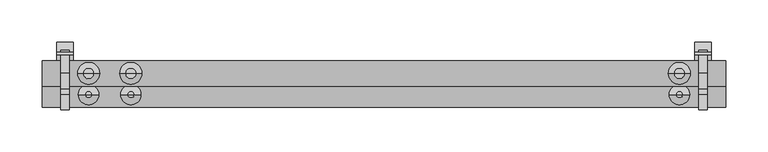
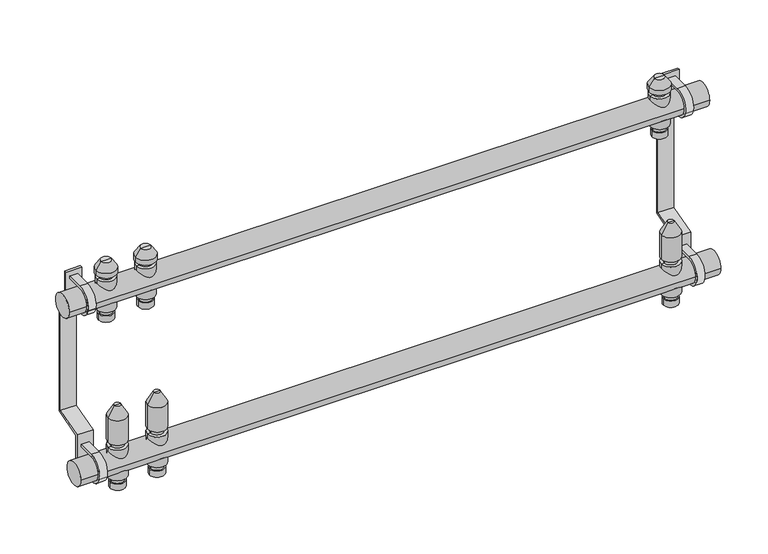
"""IFC4 building model written with IfcOpenShell, lengths in millimetres: valve geometry, PL CZ_Manifold_FT-VA : 15 circuits."""

from ifc_helpers import new_model, si_unit, point, frame, frame_2d, origin, origin_2d, place, context, project, spatial, polyline, circle_curve, trimmed, segment, composite_curve, outline, extrude, source, transform, mapped, element, save
from ifc_brep_helpers import plane_surface, cylinder_surface, revolved_surface, advanced_brep


def valve_f9b138b1(model_context):
    return source(origin(), model_context, "Body", "SolidModel", [
        advanced_brep(
        [(78.5, 0.0, -35.11267), (97.5, 0.0, -35.11267), (88.0, 0.0, -35.11267), (78.5, 0.0, -27.0369646), (97.5, 0.0, -27.0369646), (80.0, 0.0, -27.0369646), (96.0, 0.0, -27.0369646), (80.0, 0.0, -20.330253), (96.0, 0.0, -20.330253), (76.0, 0.0, -20.330253), (100.0, 0.0, -20.330253), (76.0, 0.0, 20.330253), (100.0, 0.0, 20.330253), (80.0, 0.0, 20.330253), (96.0, 0.0, 20.330253), (80.0, 0.0, 27.0474786), (96.0, 0.0, 27.0474786), (76.0, 0.0, 27.0474786), (100.0, 0.0, 27.0474786), (76.0, 0.0, 59.4084325), (100.0, 0.0, 59.4084325), (84.0, 0.0, 73.264839), (92.0, 0.0, 73.264839), (88.0, 0.0, 73.264839)],
        [
            (0, 1, circle_curve(frame((88.0, 0.0, -35.11267), z_axis=(0.0, 0.0, -1.0), x_axis=(1.0, 0.0, 0.0)), 9.5)),
            (1, 2),
            (2, 0),
            (1, 0, circle_curve(frame((88.0, 0.0, -35.11267), z_axis=(0.0, 0.0, -1.0), x_axis=(1.0, 0.0, 0.0)), 9.5)),
            (3, 4, circle_curve(frame((88.0, 0.0, -27.0369646), z_axis=(0.0, 0.0, -1.0), x_axis=(1.0, 0.0, 0.0)), 9.5)),
            (4, 1),
            (0, 3),
            (4, 3, circle_curve(frame((88.0, 0.0, -27.0369646), z_axis=(0.0, 0.0, -1.0), x_axis=(1.0, 0.0, 0.0)), 9.5)),
            (5, 6, circle_curve(frame((88.0, 0.0, -27.0369646), z_axis=(0.0, 0.0, -1.0), x_axis=(1.0, 0.0, 0.0)), 8.0)),
            (6, 4),
            (3, 5),
            (6, 5, circle_curve(frame((88.0, 0.0, -27.0369646), z_axis=(0.0, 0.0, -1.0), x_axis=(1.0, 0.0, 0.0)), 8.0)),
            (7, 8, circle_curve(frame((88.0, 0.0, -20.330253), z_axis=(0.0, 0.0, -1.0), x_axis=(1.0, 0.0, 0.0)), 8.0)),
            (8, 6),
            (5, 7),
            (8, 7, circle_curve(frame((88.0, 0.0, -20.330253), z_axis=(0.0, 0.0, -1.0), x_axis=(1.0, 0.0, 0.0)), 8.0)),
            (9, 10, circle_curve(frame((88.0, 0.0, -20.330253), z_axis=(0.0, 0.0, -1.0), x_axis=(1.0, 0.0, 0.0)), 12.0)),
            (10, 8),
            (7, 9),
            (10, 9, circle_curve(frame((88.0, 0.0, -20.330253), z_axis=(0.0, 0.0, -1.0), x_axis=(1.0, 0.0, 0.0)), 12.0)),
            (11, 12, circle_curve(frame((88.0, 0.0, 20.330253), z_axis=(0.0, 0.0, -1.0), x_axis=(1.0, 0.0, 0.0)), 12.0)),
            (12, 10),
            (9, 11),
            (12, 11, circle_curve(frame((88.0, 0.0, 20.330253), z_axis=(0.0, 0.0, -1.0), x_axis=(1.0, 0.0, 0.0)), 12.0)),
            (13, 14, circle_curve(frame((88.0, 0.0, 20.330253), z_axis=(0.0, 0.0, -1.0), x_axis=(1.0, 0.0, 0.0)), 8.0)),
            (14, 12),
            (11, 13),
            (14, 13, circle_curve(frame((88.0, 0.0, 20.330253), z_axis=(0.0, 0.0, -1.0), x_axis=(1.0, 0.0, 0.0)), 8.0)),
            (15, 16, circle_curve(frame((88.0, 0.0, 27.0474786), z_axis=(0.0, 0.0, -1.0), x_axis=(1.0, 0.0, 0.0)), 8.0)),
            (16, 14),
            (13, 15),
            (16, 15, circle_curve(frame((88.0, 0.0, 27.0474786), z_axis=(0.0, 0.0, -1.0), x_axis=(1.0, 0.0, 0.0)), 8.0)),
            (17, 18, circle_curve(frame((88.0, 0.0, 27.0474786), z_axis=(0.0, 0.0, -1.0), x_axis=(1.0, 0.0, 0.0)), 12.0)),
            (18, 16),
            (15, 17),
            (18, 17, circle_curve(frame((88.0, 0.0, 27.0474786), z_axis=(0.0, 0.0, -1.0), x_axis=(1.0, 0.0, 0.0)), 12.0)),
            (19, 20, circle_curve(frame((88.0, 0.0, 59.4084325), z_axis=(0.0, 0.0, -1.0), x_axis=(1.0, 0.0, 0.0)), 12.0)),
            (20, 18),
            (17, 19),
            (20, 19, circle_curve(frame((88.0, 0.0, 59.4084325), z_axis=(0.0, 0.0, -1.0), x_axis=(1.0, 0.0, 0.0)), 12.0)),
            (21, 22, circle_curve(frame((88.0, 0.0, 73.264839), z_axis=(0.0, 0.0, -1.0), x_axis=(1.0, 0.0, 0.0)), 4.0)),
            (22, 20),
            (19, 21),
            (22, 21, circle_curve(frame((88.0, 0.0, 73.264839), z_axis=(0.0, 0.0, -1.0), x_axis=(1.0, 0.0, 0.0)), 4.0)),
            (23, 22),
            (21, 23),
        ],
        [
            plane_surface(frame((88.0, 0.0, -35.11267), z_axis=(0.0, 0.0, -1.0), x_axis=(1.0, 0.0, 0.0))),
            cylinder_surface(frame((88.0, 0.0, 58.264839), z_axis=(0.0, 0.0, 1.0), x_axis=(1.0, 0.0, 0.0)), 9.5),
            plane_surface(frame((88.0, 0.0, -27.0369646), z_axis=(0.0, 0.0, 1.0), x_axis=(1.0, 0.0, 0.0))),
            cylinder_surface(frame((88.0, 0.0, 58.264839), z_axis=(0.0, 0.0, 1.0), x_axis=(1.0, 0.0, 0.0)), 8.0),
            plane_surface(frame((88.0, 0.0, -20.330253), z_axis=(0.0, 0.0, -1.0), x_axis=(1.0, 0.0, 0.0))),
            cylinder_surface(frame((88.0, 0.0, 58.264839), z_axis=(0.0, 0.0, 1.0), x_axis=(1.0, 0.0, 0.0)), 12.0),
            plane_surface(frame((88.0, 0.0, 20.330253), z_axis=(0.0, 0.0, 1.0), x_axis=(1.0, 0.0, 0.0))),
            plane_surface(frame((88.0, 0.0, 27.0474786), z_axis=(0.0, 0.0, -1.0), x_axis=(1.0, 0.0, 0.0))),
            revolved_surface(polyline([(100.0, 0.0, 59.4084325), (92.0, 0.0, 73.264839)]), (88.0, 0.0, 58.264839), (0.0, 0.0, 1.0)),
            plane_surface(frame((88.0, 0.0, 73.264839), z_axis=(0.0, 0.0, 1.0), x_axis=(1.0, 0.0, 0.0))),
        ],
        [
            (0, [[1, 2, 3]]),
            (0, [[4, -3, -2]]),
            (1, [[5, 6, -1, 7]]),
            (1, [[8, -7, -4, -6]]),
            (2, [[9, 10, -5, 11]]),
            (2, [[12, -11, -8, -10]]),
            (3, [[13, 14, -9, 15]]),
            (3, [[16, -15, -12, -14]]),
            (4, [[17, 18, -13, 19]]),
            (4, [[20, -19, -16, -18]]),
            (5, [[21, 22, -17, 23]]),
            (5, [[24, -23, -20, -22]]),
            (6, [[25, 26, -21, 27]]),
            (6, [[28, -27, -24, -26]]),
            (3, [[29, 30, -25, 31]]),
            (3, [[32, -31, -28, -30]]),
            (7, [[33, 34, -29, 35]]),
            (7, [[36, -35, -32, -34]]),
            (5, [[37, 38, -33, 39]]),
            (5, [[40, -39, -36, -38]]),
            (8, [[41, 42, -37, 43]]),
            (8, [[44, -43, -40, -42]]),
            (9, [[45, -41, 46]]),
            (9, [[-46, -44, -45]]),
        ],
    ),
        advanced_brep(
        [(78.5, 25.0, 174.88733), (97.5, 25.0, 174.88733), (88.0, 25.0, 174.88733), (78.5, 25.0, 182.9630354), (97.5, 25.0, 182.9630354), (80.0, 25.0, 182.9630354), (96.0, 25.0, 182.9630354), (80.0, 25.0, 189.669747), (96.0, 25.0, 189.669747), (76.0, 25.0, 189.669747), (100.0, 25.0, 189.669747), (76.0, 25.0, 230.330253), (100.0, 25.0, 230.330253), (80.0, 25.0, 230.330253), (96.0, 25.0, 230.330253), (80.0, 25.0, 236.0474786), (96.0, 25.0, 236.0474786), (75.0, 25.0, 236.0474786), (101.0, 25.0, 236.0474786), (75.0, 25.0, 242.337955), (101.0, 25.0, 242.337955), (81.6551779, 25.0, 251.842534), (94.3448221, 25.0, 251.842534), (88.0, 25.0, 251.842534)],
        [
            (0, 1, circle_curve(frame((88.0, 25.0, 174.88733), z_axis=(0.0, 0.0, -1.0), x_axis=(1.0, 0.0, 0.0)), 9.5)),
            (1, 2),
            (2, 0),
            (1, 0, circle_curve(frame((88.0, 25.0, 174.88733), z_axis=(0.0, 0.0, -1.0), x_axis=(1.0, 0.0, 0.0)), 9.5)),
            (3, 4, circle_curve(frame((88.0, 25.0, 182.9630354), z_axis=(0.0, 0.0, -1.0), x_axis=(1.0, 0.0, 0.0)), 9.5)),
            (4, 1),
            (0, 3),
            (4, 3, circle_curve(frame((88.0, 25.0, 182.9630354), z_axis=(0.0, 0.0, -1.0), x_axis=(1.0, 0.0, 0.0)), 9.5)),
            (5, 6, circle_curve(frame((88.0, 25.0, 182.9630354), z_axis=(0.0, 0.0, -1.0), x_axis=(1.0, 0.0, 0.0)), 8.0)),
            (6, 4),
            (3, 5),
            (6, 5, circle_curve(frame((88.0, 25.0, 182.9630354), z_axis=(0.0, 0.0, -1.0), x_axis=(1.0, 0.0, 0.0)), 8.0)),
            (7, 8, circle_curve(frame((88.0, 25.0, 189.669747), z_axis=(0.0, 0.0, -1.0), x_axis=(1.0, 0.0, 0.0)), 8.0)),
            (8, 6),
            (5, 7),
            (8, 7, circle_curve(frame((88.0, 25.0, 189.669747), z_axis=(0.0, 0.0, -1.0), x_axis=(1.0, 0.0, 0.0)), 8.0)),
            (9, 10, circle_curve(frame((88.0, 25.0, 189.669747), z_axis=(0.0, 0.0, -1.0), x_axis=(1.0, 0.0, 0.0)), 12.0)),
            (10, 8),
            (7, 9),
            (10, 9, circle_curve(frame((88.0, 25.0, 189.669747), z_axis=(0.0, 0.0, -1.0), x_axis=(1.0, 0.0, 0.0)), 12.0)),
            (11, 12, circle_curve(frame((88.0, 25.0, 230.330253), z_axis=(0.0, 0.0, -1.0), x_axis=(1.0, 0.0, 0.0)), 12.0)),
            (12, 10),
            (9, 11),
            (12, 11, circle_curve(frame((88.0, 25.0, 230.330253), z_axis=(0.0, 0.0, -1.0), x_axis=(1.0, 0.0, 0.0)), 12.0)),
            (13, 14, circle_curve(frame((88.0, 25.0, 230.330253), z_axis=(0.0, 0.0, -1.0), x_axis=(1.0, 0.0, 0.0)), 8.0)),
            (14, 12),
            (11, 13),
            (14, 13, circle_curve(frame((88.0, 25.0, 230.330253), z_axis=(0.0, 0.0, -1.0), x_axis=(1.0, 0.0, 0.0)), 8.0)),
            (15, 16, circle_curve(frame((88.0, 25.0, 236.0474786), z_axis=(0.0, 0.0, -1.0), x_axis=(1.0, 0.0, 0.0)), 8.0)),
            (16, 14),
            (13, 15),
            (16, 15, circle_curve(frame((88.0, 25.0, 236.0474786), z_axis=(0.0, 0.0, -1.0), x_axis=(1.0, 0.0, 0.0)), 8.0)),
            (17, 18, circle_curve(frame((88.0, 25.0, 236.0474786), z_axis=(0.0, 0.0, -1.0), x_axis=(1.0, 0.0, 0.0)), 13.0)),
            (18, 16),
            (15, 17),
            (18, 17, circle_curve(frame((88.0, 25.0, 236.0474786), z_axis=(0.0, 0.0, -1.0), x_axis=(1.0, 0.0, 0.0)), 13.0)),
            (19, 20, circle_curve(frame((88.0, 25.0, 242.337955), z_axis=(0.0, 0.0, -1.0), x_axis=(1.0, 0.0, 0.0)), 13.0)),
            (20, 18),
            (17, 19),
            (20, 19, circle_curve(frame((88.0, 25.0, 242.337955), z_axis=(0.0, 0.0, -1.0), x_axis=(1.0, 0.0, 0.0)), 13.0)),
            (21, 22, circle_curve(frame((88.0, 25.0, 251.842534), z_axis=(0.0, 0.0, -1.0), x_axis=(1.0, 0.0, 0.0)), 6.3448221)),
            (22, 20),
            (19, 21),
            (22, 21, circle_curve(frame((88.0, 25.0, 251.842534), z_axis=(0.0, 0.0, -1.0), x_axis=(1.0, 0.0, 0.0)), 6.3448221)),
            (23, 22),
            (21, 23),
        ],
        [
            plane_surface(frame((88.0, 25.0, 174.88733), z_axis=(0.0, 0.0, -1.0), x_axis=(1.0, 0.0, 0.0))),
            cylinder_surface(frame((88.0, 25.0, 247.7026565), z_axis=(0.0, 0.0, 1.0), x_axis=(1.0, 0.0, 0.0)), 9.5),
            plane_surface(frame((88.0, 25.0, 182.9630354), z_axis=(0.0, 0.0, 1.0), x_axis=(1.0, 0.0, 0.0))),
            cylinder_surface(frame((88.0, 25.0, 247.7026565), z_axis=(0.0, 0.0, 1.0), x_axis=(1.0, 0.0, 0.0)), 8.0),
            plane_surface(frame((88.0, 25.0, 189.669747), z_axis=(0.0, 0.0, -1.0), x_axis=(1.0, 0.0, 0.0))),
            cylinder_surface(frame((88.0, 25.0, 247.7026565), z_axis=(0.0, 0.0, 1.0), x_axis=(1.0, 0.0, 0.0)), 12.0),
            plane_surface(frame((88.0, 25.0, 230.330253), z_axis=(0.0, 0.0, 1.0), x_axis=(1.0, 0.0, 0.0))),
            plane_surface(frame((88.0, 25.0, 236.0474786), z_axis=(0.0, 0.0, -1.0), x_axis=(1.0, 0.0, 0.0))),
            cylinder_surface(frame((88.0, 25.0, 247.7026565), z_axis=(0.0, 0.0, 1.0), x_axis=(1.0, 0.0, 0.0)), 13.0),
            revolved_surface(polyline([(101.0, 25.0, 242.337955), (94.3448221, 25.0, 251.842534)]), (88.0, 25.0, 247.7026565), (0.0, 0.0, 1.0)),
            plane_surface(frame((88.0, 25.0, 251.842534), z_axis=(0.0, 0.0, 1.0), x_axis=(1.0, 0.0, 0.0))),
        ],
        [
            (0, [[1, 2, 3]]),
            (0, [[4, -3, -2]]),
            (1, [[5, 6, -1, 7]]),
            (1, [[8, -7, -4, -6]]),
            (2, [[9, 10, -5, 11]]),
            (2, [[12, -11, -8, -10]]),
            (3, [[13, 14, -9, 15]]),
            (3, [[16, -15, -12, -14]]),
            (4, [[17, 18, -13, 19]]),
            (4, [[20, -19, -16, -18]]),
            (5, [[21, 22, -17, 23]]),
            (5, [[24, -23, -20, -22]]),
            (6, [[25, 26, -21, 27]]),
            (6, [[28, -27, -24, -26]]),
            (3, [[29, 30, -25, 31]]),
            (3, [[32, -31, -28, -30]]),
            (7, [[33, 34, -29, 35]]),
            (7, [[36, -35, -32, -34]]),
            (8, [[37, 38, -33, 39]]),
            (8, [[40, -39, -36, -38]]),
            (9, [[41, 42, -37, 43]]),
            (9, [[44, -43, -40, -42]]),
            (10, [[45, -41, 46]]),
            (10, [[-46, -44, -45]]),
        ],
    ),
        advanced_brep(
        [(728.5, 0.0, -35.11267), (747.5, 0.0, -35.11267), (738.0, 0.0, -35.11267), (728.5, 0.0, -27.0369646), (747.5, 0.0, -27.0369646), (730.0, 0.0, -27.0369646), (746.0, 0.0, -27.0369646), (730.0, 0.0, -20.330253), (746.0, 0.0, -20.330253), (726.0, 0.0, -20.330253), (750.0, 0.0, -20.330253), (726.0, 0.0, 20.330253), (750.0, 0.0, 20.330253), (730.0, 0.0, 20.330253), (746.0, 0.0, 20.330253), (730.0, 0.0, 27.0474786), (746.0, 0.0, 27.0474786), (726.0, 0.0, 27.0474786), (750.0, 0.0, 27.0474786), (726.0, 0.0, 59.4084325), (750.0, 0.0, 59.4084325), (734.0, 0.0, 73.264839), (742.0, 0.0, 73.264839), (738.0, 0.0, 73.264839)],
        [
            (0, 1, circle_curve(frame((738.0, 0.0, -35.11267), z_axis=(0.0, 0.0, -1.0), x_axis=(1.0, 0.0, 0.0)), 9.5)),
            (1, 2),
            (2, 0),
            (1, 0, circle_curve(frame((738.0, 0.0, -35.11267), z_axis=(0.0, 0.0, -1.0), x_axis=(1.0, 0.0, 0.0)), 9.5)),
            (3, 4, circle_curve(frame((738.0, 0.0, -27.0369646), z_axis=(0.0, 0.0, -1.0), x_axis=(1.0, 0.0, 0.0)), 9.5)),
            (4, 1),
            (0, 3),
            (4, 3, circle_curve(frame((738.0, 0.0, -27.0369646), z_axis=(0.0, 0.0, -1.0), x_axis=(1.0, 0.0, 0.0)), 9.5)),
            (5, 6, circle_curve(frame((738.0, 0.0, -27.0369646), z_axis=(0.0, 0.0, -1.0), x_axis=(1.0, 0.0, 0.0)), 8.0)),
            (6, 4),
            (3, 5),
            (6, 5, circle_curve(frame((738.0, 0.0, -27.0369646), z_axis=(0.0, 0.0, -1.0), x_axis=(1.0, 0.0, 0.0)), 8.0)),
            (7, 8, circle_curve(frame((738.0, 0.0, -20.330253), z_axis=(0.0, 0.0, -1.0), x_axis=(1.0, 0.0, 0.0)), 8.0)),
            (8, 6),
            (5, 7),
            (8, 7, circle_curve(frame((738.0, 0.0, -20.330253), z_axis=(0.0, 0.0, -1.0), x_axis=(1.0, 0.0, 0.0)), 8.0)),
            (9, 10, circle_curve(frame((738.0, 0.0, -20.330253), z_axis=(0.0, 0.0, -1.0), x_axis=(1.0, 0.0, 0.0)), 12.0)),
            (10, 8),
            (7, 9),
            (10, 9, circle_curve(frame((738.0, 0.0, -20.330253), z_axis=(0.0, 0.0, -1.0), x_axis=(1.0, 0.0, 0.0)), 12.0)),
            (11, 12, circle_curve(frame((738.0, 0.0, 20.330253), z_axis=(0.0, 0.0, -1.0), x_axis=(1.0, 0.0, 0.0)), 12.0)),
            (12, 10),
            (9, 11),
            (12, 11, circle_curve(frame((738.0, 0.0, 20.330253), z_axis=(0.0, 0.0, -1.0), x_axis=(1.0, 0.0, 0.0)), 12.0)),
            (13, 14, circle_curve(frame((738.0, 0.0, 20.330253), z_axis=(0.0, 0.0, -1.0), x_axis=(1.0, 0.0, 0.0)), 8.0)),
            (14, 12),
            (11, 13),
            (14, 13, circle_curve(frame((738.0, 0.0, 20.330253), z_axis=(0.0, 0.0, -1.0), x_axis=(1.0, 0.0, 0.0)), 8.0)),
            (15, 16, circle_curve(frame((738.0, 0.0, 27.0474786), z_axis=(0.0, 0.0, -1.0), x_axis=(1.0, 0.0, 0.0)), 8.0)),
            (16, 14),
            (13, 15),
            (16, 15, circle_curve(frame((738.0, 0.0, 27.0474786), z_axis=(0.0, 0.0, -1.0), x_axis=(1.0, 0.0, 0.0)), 8.0)),
            (17, 18, circle_curve(frame((738.0, 0.0, 27.0474786), z_axis=(0.0, 0.0, -1.0), x_axis=(1.0, 0.0, 0.0)), 12.0)),
            (18, 16),
            (15, 17),
            (18, 17, circle_curve(frame((738.0, 0.0, 27.0474786), z_axis=(0.0, 0.0, -1.0), x_axis=(1.0, 0.0, 0.0)), 12.0)),
            (19, 20, circle_curve(frame((738.0, 0.0, 59.4084325), z_axis=(0.0, 0.0, -1.0), x_axis=(1.0, 0.0, 0.0)), 12.0)),
            (20, 18),
            (17, 19),
            (20, 19, circle_curve(frame((738.0, 0.0, 59.4084325), z_axis=(0.0, 0.0, -1.0), x_axis=(1.0, 0.0, 0.0)), 12.0)),
            (21, 22, circle_curve(frame((738.0, 0.0, 73.264839), z_axis=(0.0, 0.0, -1.0), x_axis=(1.0, 0.0, 0.0)), 4.0)),
            (22, 20),
            (19, 21),
            (22, 21, circle_curve(frame((738.0, 0.0, 73.264839), z_axis=(0.0, 0.0, -1.0), x_axis=(1.0, 0.0, 0.0)), 4.0)),
            (23, 22),
            (21, 23),
        ],
        [
            plane_surface(frame((738.0, 0.0, -35.11267), z_axis=(0.0, 0.0, -1.0), x_axis=(1.0, 0.0, 0.0))),
            cylinder_surface(frame((738.0, 0.0, 58.264839), z_axis=(0.0, 0.0, 1.0), x_axis=(1.0, 0.0, 0.0)), 9.5),
            plane_surface(frame((738.0, 0.0, -27.0369646), z_axis=(0.0, 0.0, 1.0), x_axis=(1.0, 0.0, 0.0))),
            cylinder_surface(frame((738.0, 0.0, 58.264839), z_axis=(0.0, 0.0, 1.0), x_axis=(1.0, 0.0, 0.0)), 8.0),
            plane_surface(frame((738.0, 0.0, -20.330253), z_axis=(0.0, 0.0, -1.0), x_axis=(1.0, 0.0, 0.0))),
            cylinder_surface(frame((738.0, 0.0, 58.264839), z_axis=(0.0, 0.0, 1.0), x_axis=(1.0, 0.0, 0.0)), 12.0),
            plane_surface(frame((738.0, 0.0, 20.330253), z_axis=(0.0, 0.0, 1.0), x_axis=(1.0, 0.0, 0.0))),
            plane_surface(frame((738.0, 0.0, 27.0474786), z_axis=(0.0, 0.0, -1.0), x_axis=(1.0, 0.0, 0.0))),
            revolved_surface(polyline([(750.0, 0.0, 59.4084325), (742.0, 0.0, 73.264839)]), (738.0, 0.0, 58.264839), (0.0, 0.0, 1.0)),
            plane_surface(frame((738.0, 0.0, 73.264839), z_axis=(0.0, 0.0, 1.0), x_axis=(1.0, 0.0, 0.0))),
        ],
        [
            (0, [[1, 2, 3]]),
            (0, [[4, -3, -2]]),
            (1, [[5, 6, -1, 7]]),
            (1, [[8, -7, -4, -6]]),
            (2, [[9, 10, -5, 11]]),
            (2, [[12, -11, -8, -10]]),
            (3, [[13, 14, -9, 15]]),
            (3, [[16, -15, -12, -14]]),
            (4, [[17, 18, -13, 19]]),
            (4, [[20, -19, -16, -18]]),
            (5, [[21, 22, -17, 23]]),
            (5, [[24, -23, -20, -22]]),
            (6, [[25, 26, -21, 27]]),
            (6, [[28, -27, -24, -26]]),
            (3, [[29, 30, -25, 31]]),
            (3, [[32, -31, -28, -30]]),
            (7, [[33, 34, -29, 35]]),
            (7, [[36, -35, -32, -34]]),
            (5, [[37, 38, -33, 39]]),
            (5, [[40, -39, -36, -38]]),
            (8, [[41, 42, -37, 43]]),
            (8, [[44, -43, -40, -42]]),
            (9, [[45, -41, 46]]),
            (9, [[-46, -44, -45]]),
        ],
    ),
        advanced_brep(
        [(728.5, 25.0, 174.88733), (747.5, 25.0, 174.88733), (738.0, 25.0, 174.88733), (728.5, 25.0, 182.9630354), (747.5, 25.0, 182.9630354), (730.0, 25.0, 182.9630354), (746.0, 25.0, 182.9630354), (730.0, 25.0, 189.669747), (746.0, 25.0, 189.669747), (726.0, 25.0, 189.669747), (750.0, 25.0, 189.669747), (726.0, 25.0, 230.330253), (750.0, 25.0, 230.330253), (730.0, 25.0, 230.330253), (746.0, 25.0, 230.330253), (730.0, 25.0, 236.0474786), (746.0, 25.0, 236.0474786), (725.0, 25.0, 236.0474786), (751.0, 25.0, 236.0474786), (725.0, 25.0, 242.337955), (751.0, 25.0, 242.337955), (731.6551779, 25.0, 251.842534), (744.3448221, 25.0, 251.842534), (738.0, 25.0, 251.842534)],
        [
            (0, 1, circle_curve(frame((738.0, 25.0, 174.88733), z_axis=(0.0, 0.0, -1.0), x_axis=(1.0, 0.0, 0.0)), 9.5)),
            (1, 2),
            (2, 0),
            (1, 0, circle_curve(frame((738.0, 25.0, 174.88733), z_axis=(0.0, 0.0, -1.0), x_axis=(1.0, 0.0, 0.0)), 9.5)),
            (3, 4, circle_curve(frame((738.0, 25.0, 182.9630354), z_axis=(0.0, 0.0, -1.0), x_axis=(1.0, 0.0, 0.0)), 9.5)),
            (4, 1),
            (0, 3),
            (4, 3, circle_curve(frame((738.0, 25.0, 182.9630354), z_axis=(0.0, 0.0, -1.0), x_axis=(1.0, 0.0, 0.0)), 9.5)),
            (5, 6, circle_curve(frame((738.0, 25.0, 182.9630354), z_axis=(0.0, 0.0, -1.0), x_axis=(1.0, 0.0, 0.0)), 8.0)),
            (6, 4),
            (3, 5),
            (6, 5, circle_curve(frame((738.0, 25.0, 182.9630354), z_axis=(0.0, 0.0, -1.0), x_axis=(1.0, 0.0, 0.0)), 8.0)),
            (7, 8, circle_curve(frame((738.0, 25.0, 189.669747), z_axis=(0.0, 0.0, -1.0), x_axis=(1.0, 0.0, 0.0)), 8.0)),
            (8, 6),
            (5, 7),
            (8, 7, circle_curve(frame((738.0, 25.0, 189.669747), z_axis=(0.0, 0.0, -1.0), x_axis=(1.0, 0.0, 0.0)), 8.0)),
            (9, 10, circle_curve(frame((738.0, 25.0, 189.669747), z_axis=(0.0, 0.0, -1.0), x_axis=(1.0, 0.0, 0.0)), 12.0)),
            (10, 8),
            (7, 9),
            (10, 9, circle_curve(frame((738.0, 25.0, 189.669747), z_axis=(0.0, 0.0, -1.0), x_axis=(1.0, 0.0, 0.0)), 12.0)),
            (11, 12, circle_curve(frame((738.0, 25.0, 230.330253), z_axis=(0.0, 0.0, -1.0), x_axis=(1.0, 0.0, 0.0)), 12.0)),
            (12, 10),
            (9, 11),
            (12, 11, circle_curve(frame((738.0, 25.0, 230.330253), z_axis=(0.0, 0.0, -1.0), x_axis=(1.0, 0.0, 0.0)), 12.0)),
            (13, 14, circle_curve(frame((738.0, 25.0, 230.330253), z_axis=(0.0, 0.0, -1.0), x_axis=(1.0, 0.0, 0.0)), 8.0)),
            (14, 12),
            (11, 13),
            (14, 13, circle_curve(frame((738.0, 25.0, 230.330253), z_axis=(0.0, 0.0, -1.0), x_axis=(1.0, 0.0, 0.0)), 8.0)),
            (15, 16, circle_curve(frame((738.0, 25.0, 236.0474786), z_axis=(0.0, 0.0, -1.0), x_axis=(1.0, 0.0, 0.0)), 8.0)),
            (16, 14),
            (13, 15),
            (16, 15, circle_curve(frame((738.0, 25.0, 236.0474786), z_axis=(0.0, 0.0, -1.0), x_axis=(1.0, 0.0, 0.0)), 8.0)),
            (17, 18, circle_curve(frame((738.0, 25.0, 236.0474786), z_axis=(0.0, 0.0, -1.0), x_axis=(1.0, 0.0, 0.0)), 13.0)),
            (18, 16),
            (15, 17),
            (18, 17, circle_curve(frame((738.0, 25.0, 236.0474786), z_axis=(0.0, 0.0, -1.0), x_axis=(1.0, 0.0, 0.0)), 13.0)),
            (19, 20, circle_curve(frame((738.0, 25.0, 242.337955), z_axis=(0.0, 0.0, -1.0), x_axis=(1.0, 0.0, 0.0)), 13.0)),
            (20, 18),
            (17, 19),
            (20, 19, circle_curve(frame((738.0, 25.0, 242.337955), z_axis=(0.0, 0.0, -1.0), x_axis=(1.0, 0.0, 0.0)), 13.0)),
            (21, 22, circle_curve(frame((738.0, 25.0, 251.842534), z_axis=(0.0, 0.0, -1.0), x_axis=(1.0, 0.0, 0.0)), 6.3448221)),
            (22, 20),
            (19, 21),
            (22, 21, circle_curve(frame((738.0, 25.0, 251.842534), z_axis=(0.0, 0.0, -1.0), x_axis=(1.0, 0.0, 0.0)), 6.3448221)),
            (23, 22),
            (21, 23),
        ],
        [
            plane_surface(frame((738.0, 25.0, 174.88733), z_axis=(0.0, 0.0, -1.0), x_axis=(1.0, 0.0, 0.0))),
            cylinder_surface(frame((738.0, 25.0, 247.7026565), z_axis=(0.0, 0.0, 1.0), x_axis=(1.0, 0.0, 0.0)), 9.5),
            plane_surface(frame((738.0, 25.0, 182.9630354), z_axis=(0.0, 0.0, 1.0), x_axis=(1.0, 0.0, 0.0))),
            cylinder_surface(frame((738.0, 25.0, 247.7026565), z_axis=(0.0, 0.0, 1.0), x_axis=(1.0, 0.0, 0.0)), 8.0),
            plane_surface(frame((738.0, 25.0, 189.669747), z_axis=(0.0, 0.0, -1.0), x_axis=(1.0, 0.0, 0.0))),
            cylinder_surface(frame((738.0, 25.0, 247.7026565), z_axis=(0.0, 0.0, 1.0), x_axis=(1.0, 0.0, 0.0)), 12.0),
            plane_surface(frame((738.0, 25.0, 230.330253), z_axis=(0.0, 0.0, 1.0), x_axis=(1.0, 0.0, 0.0))),
            plane_surface(frame((738.0, 25.0, 236.0474786), z_axis=(0.0, 0.0, -1.0), x_axis=(1.0, 0.0, 0.0))),
            cylinder_surface(frame((738.0, 25.0, 247.7026565), z_axis=(0.0, 0.0, 1.0), x_axis=(1.0, 0.0, 0.0)), 13.0),
            revolved_surface(polyline([(751.0, 25.0, 242.337955), (744.3448221, 25.0, 251.842534)]), (738.0, 25.0, 247.7026565), (0.0, 0.0, 1.0)),
            plane_surface(frame((738.0, 25.0, 251.842534), z_axis=(0.0, 0.0, 1.0), x_axis=(1.0, 0.0, 0.0))),
        ],
        [
            (0, [[1, 2, 3]]),
            (0, [[4, -3, -2]]),
            (1, [[5, 6, -1, 7]]),
            (1, [[8, -7, -4, -6]]),
            (2, [[9, 10, -5, 11]]),
            (2, [[12, -11, -8, -10]]),
            (3, [[13, 14, -9, 15]]),
            (3, [[16, -15, -12, -14]]),
            (4, [[17, 18, -13, 19]]),
            (4, [[20, -19, -16, -18]]),
            (5, [[21, 22, -17, 23]]),
            (5, [[24, -23, -20, -22]]),
            (6, [[25, 26, -21, 27]]),
            (6, [[28, -27, -24, -26]]),
            (3, [[29, 30, -25, 31]]),
            (3, [[32, -31, -28, -30]]),
            (7, [[33, 34, -29, 35]]),
            (7, [[36, -35, -32, -34]]),
            (8, [[37, 38, -33, 39]]),
            (8, [[40, -39, -36, -38]]),
            (9, [[41, 42, -37, 43]]),
            (9, [[44, -43, -40, -42]]),
            (10, [[45, -41, 46]]),
            (10, [[-46, -44, -45]]),
        ],
    ),
        advanced_brep(
        [(28.5, 25.0, 174.88733), (47.5, 25.0, 174.88733), (38.0, 25.0, 174.88733), (28.5, 25.0, 182.9630354), (47.5, 25.0, 182.9630354), (30.0, 25.0, 182.9630354), (46.0, 25.0, 182.9630354), (30.0, 25.0, 189.669747), (46.0, 25.0, 189.669747), (26.0, 25.0, 189.669747), (50.0, 25.0, 189.669747), (26.0, 25.0, 230.330253), (50.0, 25.0, 230.330253), (30.0, 25.0, 230.330253), (46.0, 25.0, 230.330253), (30.0, 25.0, 236.0474786), (46.0, 25.0, 236.0474786), (25.0, 25.0, 236.0474786), (51.0, 25.0, 236.0474786), (25.0, 25.0, 242.337955), (51.0, 25.0, 242.337955), (31.6551779, 25.0, 251.842534), (44.3448221, 25.0, 251.842534), (38.0, 25.0, 251.842534)],
        [
            (0, 1, circle_curve(frame((38.0, 25.0, 174.88733), z_axis=(0.0, 0.0, -1.0), x_axis=(1.0, 0.0, 0.0)), 9.5)),
            (1, 2),
            (2, 0),
            (1, 0, circle_curve(frame((38.0, 25.0, 174.88733), z_axis=(0.0, 0.0, -1.0), x_axis=(1.0, 0.0, 0.0)), 9.5)),
            (3, 4, circle_curve(frame((38.0, 25.0, 182.9630354), z_axis=(0.0, 0.0, -1.0), x_axis=(1.0, 0.0, 0.0)), 9.5)),
            (4, 1),
            (0, 3),
            (4, 3, circle_curve(frame((38.0, 25.0, 182.9630354), z_axis=(0.0, 0.0, -1.0), x_axis=(1.0, 0.0, 0.0)), 9.5)),
            (5, 6, circle_curve(frame((38.0, 25.0, 182.9630354), z_axis=(0.0, 0.0, -1.0), x_axis=(1.0, 0.0, 0.0)), 8.0)),
            (6, 4),
            (3, 5),
            (6, 5, circle_curve(frame((38.0, 25.0, 182.9630354), z_axis=(0.0, 0.0, -1.0), x_axis=(1.0, 0.0, 0.0)), 8.0)),
            (7, 8, circle_curve(frame((38.0, 25.0, 189.669747), z_axis=(0.0, 0.0, -1.0), x_axis=(1.0, 0.0, 0.0)), 8.0)),
            (8, 6),
            (5, 7),
            (8, 7, circle_curve(frame((38.0, 25.0, 189.669747), z_axis=(0.0, 0.0, -1.0), x_axis=(1.0, 0.0, 0.0)), 8.0)),
            (9, 10, circle_curve(frame((38.0, 25.0, 189.669747), z_axis=(0.0, 0.0, -1.0), x_axis=(1.0, 0.0, 0.0)), 12.0)),
            (10, 8),
            (7, 9),
            (10, 9, circle_curve(frame((38.0, 25.0, 189.669747), z_axis=(0.0, 0.0, -1.0), x_axis=(1.0, 0.0, 0.0)), 12.0)),
            (11, 12, circle_curve(frame((38.0, 25.0, 230.330253), z_axis=(0.0, 0.0, -1.0), x_axis=(1.0, 0.0, 0.0)), 12.0)),
            (12, 10),
            (9, 11),
            (12, 11, circle_curve(frame((38.0, 25.0, 230.330253), z_axis=(0.0, 0.0, -1.0), x_axis=(1.0, 0.0, 0.0)), 12.0)),
            (13, 14, circle_curve(frame((38.0, 25.0, 230.330253), z_axis=(0.0, 0.0, -1.0), x_axis=(1.0, 0.0, 0.0)), 8.0)),
            (14, 12),
            (11, 13),
            (14, 13, circle_curve(frame((38.0, 25.0, 230.330253), z_axis=(0.0, 0.0, -1.0), x_axis=(1.0, 0.0, 0.0)), 8.0)),
            (15, 16, circle_curve(frame((38.0, 25.0, 236.0474786), z_axis=(0.0, 0.0, -1.0), x_axis=(1.0, 0.0, 0.0)), 8.0)),
            (16, 14),
            (13, 15),
            (16, 15, circle_curve(frame((38.0, 25.0, 236.0474786), z_axis=(0.0, 0.0, -1.0), x_axis=(1.0, 0.0, 0.0)), 8.0)),
            (17, 18, circle_curve(frame((38.0, 25.0, 236.0474786), z_axis=(0.0, 0.0, -1.0), x_axis=(1.0, 0.0, 0.0)), 13.0)),
            (18, 16),
            (15, 17),
            (18, 17, circle_curve(frame((38.0, 25.0, 236.0474786), z_axis=(0.0, 0.0, -1.0), x_axis=(1.0, 0.0, 0.0)), 13.0)),
            (19, 20, circle_curve(frame((38.0, 25.0, 242.337955), z_axis=(0.0, 0.0, -1.0), x_axis=(1.0, 0.0, 0.0)), 13.0)),
            (20, 18),
            (17, 19),
            (20, 19, circle_curve(frame((38.0, 25.0, 242.337955), z_axis=(0.0, 0.0, -1.0), x_axis=(1.0, 0.0, 0.0)), 13.0)),
            (21, 22, circle_curve(frame((38.0, 25.0, 251.842534), z_axis=(0.0, 0.0, -1.0), x_axis=(1.0, 0.0, 0.0)), 6.3448221)),
            (22, 20),
            (19, 21),
            (22, 21, circle_curve(frame((38.0, 25.0, 251.842534), z_axis=(0.0, 0.0, -1.0), x_axis=(1.0, 0.0, 0.0)), 6.3448221)),
            (23, 22),
            (21, 23),
        ],
        [
            plane_surface(frame((38.0, 25.0, 174.88733), z_axis=(0.0, 0.0, -1.0), x_axis=(1.0, 0.0, 0.0))),
            cylinder_surface(frame((38.0, 25.0, 247.7026565), z_axis=(0.0, 0.0, 1.0), x_axis=(1.0, 0.0, 0.0)), 9.5),
            plane_surface(frame((38.0, 25.0, 182.9630354), z_axis=(0.0, 0.0, 1.0), x_axis=(1.0, 0.0, 0.0))),
            cylinder_surface(frame((38.0, 25.0, 247.7026565), z_axis=(0.0, 0.0, 1.0), x_axis=(1.0, 0.0, 0.0)), 8.0),
            plane_surface(frame((38.0, 25.0, 189.669747), z_axis=(0.0, 0.0, -1.0), x_axis=(1.0, 0.0, 0.0))),
            cylinder_surface(frame((38.0, 25.0, 247.7026565), z_axis=(0.0, 0.0, 1.0), x_axis=(1.0, 0.0, 0.0)), 12.0),
            plane_surface(frame((38.0, 25.0, 230.330253), z_axis=(0.0, 0.0, 1.0), x_axis=(1.0, 0.0, 0.0))),
            plane_surface(frame((38.0, 25.0, 236.0474786), z_axis=(0.0, 0.0, -1.0), x_axis=(1.0, 0.0, 0.0))),
            cylinder_surface(frame((38.0, 25.0, 247.7026565), z_axis=(0.0, 0.0, 1.0), x_axis=(1.0, 0.0, 0.0)), 13.0),
            revolved_surface(polyline([(51.0, 25.0, 242.337955), (44.3448221, 25.0, 251.842534)]), (38.0, 25.0, 247.7026565), (0.0, 0.0, 1.0)),
            plane_surface(frame((38.0, 25.0, 251.842534), z_axis=(0.0, 0.0, 1.0), x_axis=(1.0, 0.0, 0.0))),
        ],
        [
            (0, [[1, 2, 3]]),
            (0, [[4, -3, -2]]),
            (1, [[5, 6, -1, 7]]),
            (1, [[8, -7, -4, -6]]),
            (2, [[9, 10, -5, 11]]),
            (2, [[12, -11, -8, -10]]),
            (3, [[13, 14, -9, 15]]),
            (3, [[16, -15, -12, -14]]),
            (4, [[17, 18, -13, 19]]),
            (4, [[20, -19, -16, -18]]),
            (5, [[21, 22, -17, 23]]),
            (5, [[24, -23, -20, -22]]),
            (6, [[25, 26, -21, 27]]),
            (6, [[28, -27, -24, -26]]),
            (3, [[29, 30, -25, 31]]),
            (3, [[32, -31, -28, -30]]),
            (7, [[33, 34, -29, 35]]),
            (7, [[36, -35, -32, -34]]),
            (8, [[37, 38, -33, 39]]),
            (8, [[40, -39, -36, -38]]),
            (9, [[41, 42, -37, 43]]),
            (9, [[44, -43, -40, -42]]),
            (10, [[45, -41, 46]]),
            (10, [[-46, -44, -45]]),
        ],
    ),
        advanced_brep(
        [(28.5, 0.0, -35.11267), (47.5, 0.0, -35.11267), (38.0, 0.0, -35.11267), (28.5, 0.0, -27.0369646), (47.5, 0.0, -27.0369646), (30.0, 0.0, -27.0369646), (46.0, 0.0, -27.0369646), (30.0, 0.0, -20.330253), (46.0, 0.0, -20.330253), (26.0, 0.0, -20.330253), (50.0, 0.0, -20.330253), (26.0, 0.0, 20.330253), (50.0, 0.0, 20.330253), (30.0, 0.0, 20.330253), (46.0, 0.0, 20.330253), (30.0, 0.0, 27.0474786), (46.0, 0.0, 27.0474786), (26.0, 0.0, 27.0474786), (50.0, 0.0, 27.0474786), (26.0, 0.0, 59.4084325), (50.0, 0.0, 59.4084325), (34.0, 0.0, 73.264839), (42.0, 0.0, 73.264839), (38.0, 0.0, 73.264839)],
        [
            (0, 1, circle_curve(frame((38.0, 0.0, -35.11267), z_axis=(0.0, 0.0, -1.0), x_axis=(1.0, 0.0, 0.0)), 9.5)),
            (1, 2),
            (2, 0),
            (1, 0, circle_curve(frame((38.0, 0.0, -35.11267), z_axis=(0.0, 0.0, -1.0), x_axis=(1.0, 0.0, 0.0)), 9.5)),
            (3, 4, circle_curve(frame((38.0, 0.0, -27.0369646), z_axis=(0.0, 0.0, -1.0), x_axis=(1.0, 0.0, 0.0)), 9.5)),
            (4, 1),
            (0, 3),
            (4, 3, circle_curve(frame((38.0, 0.0, -27.0369646), z_axis=(0.0, 0.0, -1.0), x_axis=(1.0, 0.0, 0.0)), 9.5)),
            (5, 6, circle_curve(frame((38.0, 0.0, -27.0369646), z_axis=(0.0, 0.0, -1.0), x_axis=(1.0, 0.0, 0.0)), 8.0)),
            (6, 4),
            (3, 5),
            (6, 5, circle_curve(frame((38.0, 0.0, -27.0369646), z_axis=(0.0, 0.0, -1.0), x_axis=(1.0, 0.0, 0.0)), 8.0)),
            (7, 8, circle_curve(frame((38.0, 0.0, -20.330253), z_axis=(0.0, 0.0, -1.0), x_axis=(1.0, 0.0, 0.0)), 8.0)),
            (8, 6),
            (5, 7),
            (8, 7, circle_curve(frame((38.0, 0.0, -20.330253), z_axis=(0.0, 0.0, -1.0), x_axis=(1.0, 0.0, 0.0)), 8.0)),
            (9, 10, circle_curve(frame((38.0, 0.0, -20.330253), z_axis=(0.0, 0.0, -1.0), x_axis=(1.0, 0.0, 0.0)), 12.0)),
            (10, 8),
            (7, 9),
            (10, 9, circle_curve(frame((38.0, 0.0, -20.330253), z_axis=(0.0, 0.0, -1.0), x_axis=(1.0, 0.0, 0.0)), 12.0)),
            (11, 12, circle_curve(frame((38.0, 0.0, 20.330253), z_axis=(0.0, 0.0, -1.0), x_axis=(1.0, 0.0, 0.0)), 12.0)),
            (12, 10),
            (9, 11),
            (12, 11, circle_curve(frame((38.0, 0.0, 20.330253), z_axis=(0.0, 0.0, -1.0), x_axis=(1.0, 0.0, 0.0)), 12.0)),
            (13, 14, circle_curve(frame((38.0, 0.0, 20.330253), z_axis=(0.0, 0.0, -1.0), x_axis=(1.0, 0.0, 0.0)), 8.0)),
            (14, 12),
            (11, 13),
            (14, 13, circle_curve(frame((38.0, 0.0, 20.330253), z_axis=(0.0, 0.0, -1.0), x_axis=(1.0, 0.0, 0.0)), 8.0)),
            (15, 16, circle_curve(frame((38.0, 0.0, 27.0474786), z_axis=(0.0, 0.0, -1.0), x_axis=(1.0, 0.0, 0.0)), 8.0)),
            (16, 14),
            (13, 15),
            (16, 15, circle_curve(frame((38.0, 0.0, 27.0474786), z_axis=(0.0, 0.0, -1.0), x_axis=(1.0, 0.0, 0.0)), 8.0)),
            (17, 18, circle_curve(frame((38.0, 0.0, 27.0474786), z_axis=(0.0, 0.0, -1.0), x_axis=(1.0, 0.0, 0.0)), 12.0)),
            (18, 16),
            (15, 17),
            (18, 17, circle_curve(frame((38.0, 0.0, 27.0474786), z_axis=(0.0, 0.0, -1.0), x_axis=(1.0, 0.0, 0.0)), 12.0)),
            (19, 20, circle_curve(frame((38.0, 0.0, 59.4084325), z_axis=(0.0, 0.0, -1.0), x_axis=(1.0, 0.0, 0.0)), 12.0)),
            (20, 18),
            (17, 19),
            (20, 19, circle_curve(frame((38.0, 0.0, 59.4084325), z_axis=(0.0, 0.0, -1.0), x_axis=(1.0, 0.0, 0.0)), 12.0)),
            (21, 22, circle_curve(frame((38.0, 0.0, 73.264839), z_axis=(0.0, 0.0, -1.0), x_axis=(1.0, 0.0, 0.0)), 4.0)),
            (22, 20),
            (19, 21),
            (22, 21, circle_curve(frame((38.0, 0.0, 73.264839), z_axis=(0.0, 0.0, -1.0), x_axis=(1.0, 0.0, 0.0)), 4.0)),
            (23, 22),
            (21, 23),
        ],
        [
            plane_surface(frame((38.0, 0.0, -35.11267), z_axis=(0.0, 0.0, -1.0), x_axis=(1.0, 0.0, 0.0))),
            cylinder_surface(frame((38.0, 0.0, 58.264839), z_axis=(0.0, 0.0, 1.0), x_axis=(1.0, 0.0, 0.0)), 9.5),
            plane_surface(frame((38.0, 0.0, -27.0369646), z_axis=(0.0, 0.0, 1.0), x_axis=(1.0, 0.0, 0.0))),
            cylinder_surface(frame((38.0, 0.0, 58.264839), z_axis=(0.0, 0.0, 1.0), x_axis=(1.0, 0.0, 0.0)), 8.0),
            plane_surface(frame((38.0, 0.0, -20.330253), z_axis=(0.0, 0.0, -1.0), x_axis=(1.0, 0.0, 0.0))),
            cylinder_surface(frame((38.0, 0.0, 58.264839), z_axis=(0.0, 0.0, 1.0), x_axis=(1.0, 0.0, 0.0)), 12.0),
            plane_surface(frame((38.0, 0.0, 20.330253), z_axis=(0.0, 0.0, 1.0), x_axis=(1.0, 0.0, 0.0))),
            plane_surface(frame((38.0, 0.0, 27.0474786), z_axis=(0.0, 0.0, -1.0), x_axis=(1.0, 0.0, 0.0))),
            revolved_surface(polyline([(50.0, 0.0, 59.4084325), (42.0, 0.0, 73.264839)]), (38.0, 0.0, 58.264839), (0.0, 0.0, 1.0)),
            plane_surface(frame((38.0, 0.0, 73.264839), z_axis=(0.0, 0.0, 1.0), x_axis=(1.0, 0.0, 0.0))),
        ],
        [
            (0, [[1, 2, 3]]),
            (0, [[4, -3, -2]]),
            (1, [[5, 6, -1, 7]]),
            (1, [[8, -7, -4, -6]]),
            (2, [[9, 10, -5, 11]]),
            (2, [[12, -11, -8, -10]]),
            (3, [[13, 14, -9, 15]]),
            (3, [[16, -15, -12, -14]]),
            (4, [[17, 18, -13, 19]]),
            (4, [[20, -19, -16, -18]]),
            (5, [[21, 22, -17, 23]]),
            (5, [[24, -23, -20, -22]]),
            (6, [[25, 26, -21, 27]]),
            (6, [[28, -27, -24, -26]]),
            (3, [[29, 30, -25, 31]]),
            (3, [[32, -31, -28, -30]]),
            (7, [[33, 34, -29, 35]]),
            (7, [[36, -35, -32, -34]]),
            (5, [[37, 38, -33, 39]]),
            (5, [[40, -39, -36, -38]]),
            (8, [[41, 42, -37, 43]]),
            (8, [[44, -43, -40, -42]]),
            (9, [[45, -41, 46]]),
            (9, [[-46, -44, -45]]),
        ],
    ),
        extrude(outline(composite_curve([segment(trimmed(circle_curve(origin_2d(), 15.0), [point((0.0, 15.0))], [point((0.0, -15.0))], True, "CARTESIAN"), True, "CONTINUOUS"), segment(polyline([(0.0, -15.0), (27.6751284, -15.0), (27.6751284, -18.0), (0.0, -18.0)]), True, "CONTINUOUS"), segment(trimmed(circle_curve(origin_2d(), 18.0), [point((0.0, -18.0))], [point((0.0, 18.0))], False, "CARTESIAN"), True, "CONTINUOUS"), segment(polyline([(0.0, 18.0), (27.6751284, 18.0), (27.6751284, 15.0), (0.0, 15.0)]), True, "CONTINUOUS")], self_intersect=False)), frame((761.0, 0.0, 0.0), z_axis=(1.0, 0.0, 0.0), x_axis=(0.0, 1.0, 0.0)), (0.0, 0.0, 1.0), 10.0),
        extrude(outline(composite_curve([segment(trimmed(circle_curve(frame_2d((25.0, 210.0)), 15.0), [point((25.0, 225.0))], [point((25.0, 195.0))], True, "CARTESIAN"), True, "CONTINUOUS"), segment(polyline([(25.0, 195.0), (52.6751284, 195.0), (52.6751284, 192.0), (25.0, 192.0)]), True, "CONTINUOUS"), segment(trimmed(circle_curve(frame_2d((25.0, 210.0)), 18.0), [point((25.0, 192.0))], [point((25.0, 228.0))], False, "CARTESIAN"), True, "CONTINUOUS"), segment(polyline([(25.0, 228.0), (52.6751284, 228.0), (52.6751284, 225.0), (25.0, 225.0)]), True, "CONTINUOUS")], self_intersect=False)), frame((761.0, 0.0, 0.0), z_axis=(1.0, 0.0, 0.0), x_axis=(0.0, 1.0, 0.0)), (0.0, 0.0, 1.0), 10.0),
        extrude(outline(polyline([(62.0, 182.8840762), (62.0, 40.6095793), (25.0, 30.0), (25.0, -30.0), (22.0, -30.0), (22.0, 32.2606622), (59.0, 42.8702414), (59.0, 180.3667773), (47.0, 182.4827011), (47.0, 235.0), (50.0, 235.0), (50.0, 185.0), (62.0, 182.8840762)])), frame((756.0, 0.0, 0.0), z_axis=(1.0, 0.0, 0.0), x_axis=(0.0, 1.0, 0.0)), (0.0, 0.0, 1.0), 20.0),
        extrude(outline(composite_curve([segment(trimmed(circle_curve(origin_2d(), 15.0), [point((0.0, 15.0))], [point((0.0, -15.0))], True, "CARTESIAN"), True, "CONTINUOUS"), segment(polyline([(0.0, -15.0), (27.6751284, -15.0), (27.6751284, -18.0), (0.0, -18.0)]), True, "CONTINUOUS"), segment(trimmed(circle_curve(origin_2d(), 18.0), [point((0.0, -18.0))], [point((0.0, 18.0))], False, "CARTESIAN"), True, "CONTINUOUS"), segment(polyline([(0.0, 18.0), (27.6751284, 18.0), (27.6751284, 15.0), (0.0, 15.0)]), True, "CONTINUOUS")], self_intersect=False)), frame((5.0, 0.0, 0.0), z_axis=(1.0, 0.0, 0.0), x_axis=(0.0, 1.0, 0.0)), (0.0, 0.0, 1.0), 10.0),
        extrude(outline(composite_curve([segment(trimmed(circle_curve(frame_2d((25.0, 210.0)), 15.0), [point((25.0, 225.0))], [point((25.0, 195.0))], True, "CARTESIAN"), True, "CONTINUOUS"), segment(polyline([(25.0, 195.0), (52.6751284, 195.0), (52.6751284, 192.0), (25.0, 192.0)]), True, "CONTINUOUS"), segment(trimmed(circle_curve(frame_2d((25.0, 210.0)), 18.0), [point((25.0, 192.0))], [point((25.0, 228.0))], False, "CARTESIAN"), True, "CONTINUOUS"), segment(polyline([(25.0, 228.0), (52.6751284, 228.0), (52.6751284, 225.0), (25.0, 225.0)]), True, "CONTINUOUS")], self_intersect=False)), frame((5.0, 0.0, 0.0), z_axis=(1.0, 0.0, 0.0), x_axis=(0.0, 1.0, 0.0)), (0.0, 0.0, 1.0), 10.0),
        extrude(outline(polyline([(62.0, 182.8840762), (62.0, 40.6095793), (25.0, 30.0), (25.0, -30.0), (22.0, -30.0), (22.0, 32.2606622), (59.0, 42.8702414), (59.0, 180.3667773), (47.0, 182.4827011), (47.0, 235.0), (50.0, 235.0), (50.0, 185.0), (62.0, 182.8840762)])), frame((0.0, 0.0, 0.0), z_axis=(1.0, 0.0, 0.0), x_axis=(0.0, 1.0, 0.0)), (0.0, 0.0, 1.0), 20.0),
        extrude(outline(composite_curve([segment(trimmed(circle_curve(origin_2d(), 15.0), [point((15.0, 0.0))], [point((-15.0, 0.0))], False, "CARTESIAN"), True, "CONTINUOUS"), segment(trimmed(circle_curve(origin_2d(), 15.0), [point((-15.0, 0.0))], [point((15.0, 0.0))], False, "CARTESIAN"), True, "CONTINUOUS")], self_intersect=False)), frame((-17.0, 0.0, 0.0), z_axis=(1.0, 0.0, 0.0), x_axis=(0.0, 1.0, 0.0)), (0.0, 0.0, 1.0), 810.0),
        extrude(outline(composite_curve([segment(trimmed(circle_curve(frame_2d((25.0, 210.0)), 15.0), [point((40.0, 210.0))], [point((10.0, 210.0))], False, "CARTESIAN"), True, "CONTINUOUS"), segment(trimmed(circle_curve(frame_2d((25.0, 210.0)), 15.0), [point((10.0, 210.0))], [point((40.0, 210.0))], False, "CARTESIAN"), True, "CONTINUOUS")], self_intersect=False)), frame((-17.0, 0.0, 0.0), z_axis=(1.0, 0.0, 0.0), x_axis=(0.0, 1.0, 0.0)), (0.0, 0.0, 1.0), 810.0),
    ])


if __name__ == "__main__":
    model = new_model("IFC4")
    model_context = context("Model", 3, world=origin())
    ifc_project = project(units=[si_unit("LENGTHUNIT", "METRE", prefix="MILLI")], contexts=[model_context])
    site = spatial("IfcSite", under=ifc_project)
    building = spatial("IfcBuilding", under=site)
    placement = place(None, origin())
    valve_shape = valve_f9b138b1(model_context)
    element("IfcValve", 1, ObjectType="PL CZ_Manifold_FT-VA : 15 circuits", at=placement, inside=building, context=model_context, shape_type="MappedRepresentation", body=[
        mapped(valve_shape, transform((0.0, 0.0, 0.0), x_axis=(1.0, 0.0, 0.0), y_axis=(0.0, 1.0, 0.0), z_axis=(0.0, 0.0, 1.0))),
    ])
    save(model, "model.ifc")
